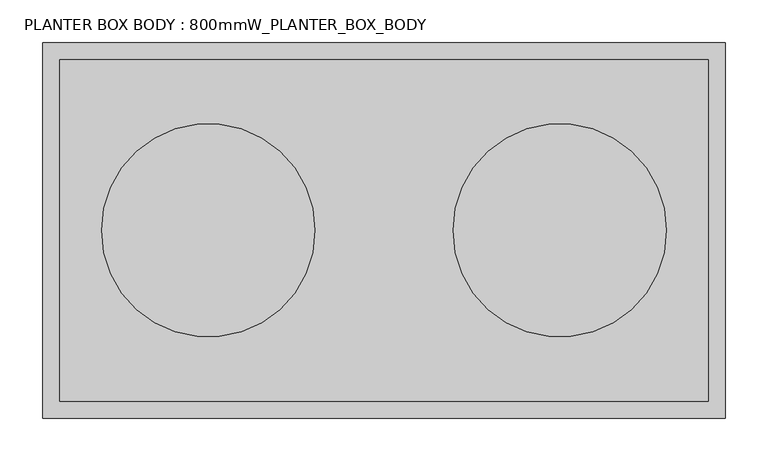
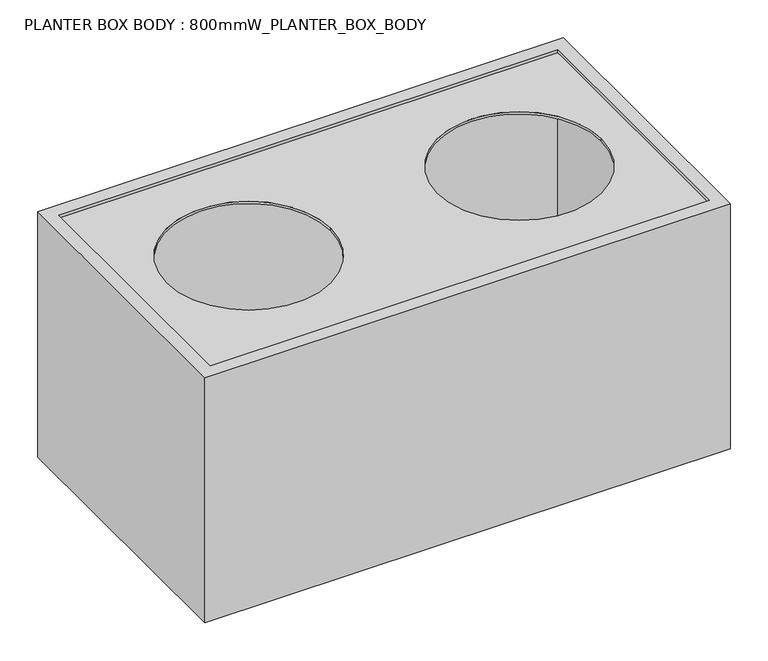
"""IFC4 building model written with IfcOpenShell, lengths in millimetres: furniture geometry, PLANTER BOX BODY : 800mmW_PLANTER_BOX_BODY."""

from ifc_helpers import new_model, si_unit, point, frame, frame_2d, origin, origin_with_axes, place, context, project, spatial, polyline, circle_curve, trimmed, segment, composite_curve, outline, extrude, source, transform, mapped, element, save


def planter_box_body_800mmw_planter_box_body_f6178e5e(model_context):
    return source(origin(), model_context, "Body", "SweptSolid", [
        extrude(outline(polyline([(380.0, -200.0), (-380.0, -200.0), (-380.0, 200.0), (380.0, 200.0), (380.0, -200.0)])), origin_with_axes(), (0.0, 0.0, 1.0), 15.0),
        extrude(outline(polyline([(380.0, -200.0), (-380.0, -200.0), (-380.0, 200.0), (380.0, 200.0), (380.0, -200.0)]), holes=[composite_curve([segment(trimmed(circle_curve(frame_2d((-206.0, 0.0)), 125.0), [point((-331.0, 0.0))], [point((-81.0, 0.0))], True, "CARTESIAN"), True, "CONTINUOUS"), segment(trimmed(circle_curve(frame_2d((-206.0, 0.0)), 125.0), [point((-81.0, 0.0))], [point((-331.0, 0.0))], True, "CARTESIAN"), True, "CONTINUOUS")], self_intersect=False), composite_curve([segment(trimmed(circle_curve(frame_2d((206.0, 0.0)), 125.0), [point((81.0, 0.0))], [point((331.0, 0.0))], True, "CARTESIAN"), True, "CONTINUOUS"), segment(trimmed(circle_curve(frame_2d((206.0, 0.0)), 125.0), [point((331.0, 0.0))], [point((81.0, 0.0))], True, "CARTESIAN"), True, "CONTINUOUS")], self_intersect=False)]), frame((0.0, 0.0, 386.4363245), z_axis=(0.0, 0.0, 1.0), x_axis=(1.0, 0.0, 0.0)), (0.0, 0.0, 1.0), 3.5636755),
        extrude(outline(polyline([(400.0, -220.0), (-400.0, -220.0), (-400.0, 220.0), (400.0, 220.0), (400.0, -220.0)]), holes=[polyline([(-380.0, -200.0), (380.0, -200.0), (380.0, 200.0), (-380.0, 200.0), (-380.0, -200.0)])]), origin_with_axes(), (0.0, 0.0, 1.0), 395.0),
    ])


if __name__ == "__main__":
    model = new_model("IFC4")
    model_context = context("Model", 3, world=origin())
    ifc_project = project(units=[si_unit("LENGTHUNIT", "METRE", prefix="MILLI")], contexts=[model_context])
    site = spatial("IfcSite", under=ifc_project)
    building = spatial("IfcBuilding", under=site)
    placement = place(None, origin())
    planter_box_body_800mmw_planter_box_body_shape = planter_box_body_800mmw_planter_box_body_f6178e5e(model_context)
    element("IfcFurniture", 1, ObjectType="PLANTER BOX BODY : 800mmW_PLANTER_BOX_BODY", at=placement, inside=building, context=model_context, shape_type="MappedRepresentation", body=[
        mapped(planter_box_body_800mmw_planter_box_body_shape, transform((0.0, 0.0, 0.0), x_axis=(1.0, 0.0, 0.0), y_axis=(0.0, 1.0, 0.0), z_axis=(0.0, 0.0, 1.0))),
    ])
    save(model, "model.ifc")
